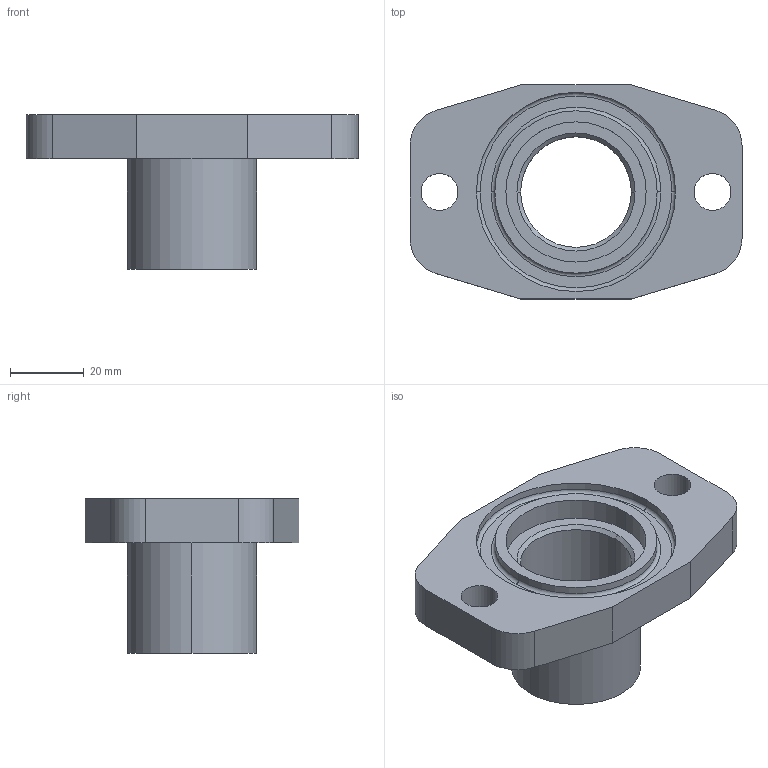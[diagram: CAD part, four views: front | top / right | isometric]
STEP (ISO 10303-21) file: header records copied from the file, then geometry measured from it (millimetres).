
FILE_DESCRIPTION (( 'STEP AP214' ), '1' );
FILE_NAME ('サンプル_3月_3_drain.STEP', '2025-03-10T08:08:49', ( '' ), ( '' ), 'SwSTEP 2.0', 'SolidWorks 2025', '' );
FILE_SCHEMA (( 'AUTOMOTIVE_DESIGN' ));
Length unit declared in the file: millimetre
Products named in the file (1): サンプル_3月_3_drain
Bounding box: 90 x 58 x 42 mm (x, y, z)
Volume: 48094.7 mm3; surface area: 19531.3 mm2
Topology: 1 solids, 1 shells, 38 faces, 90 edges, 58 vertices
Faces by surface type: cylinder 18, plane 14, torus 4, cone 2
Entity records: 1147 total; most frequent: DIRECTION 214, CARTESIAN_POINT 187, ORIENTED_EDGE 180, EDGE_CURVE 90, AXIS2_PLACEMENT_3D 85, VERTEX_POINT 58, EDGE_LOOP 48, CIRCLE 46
